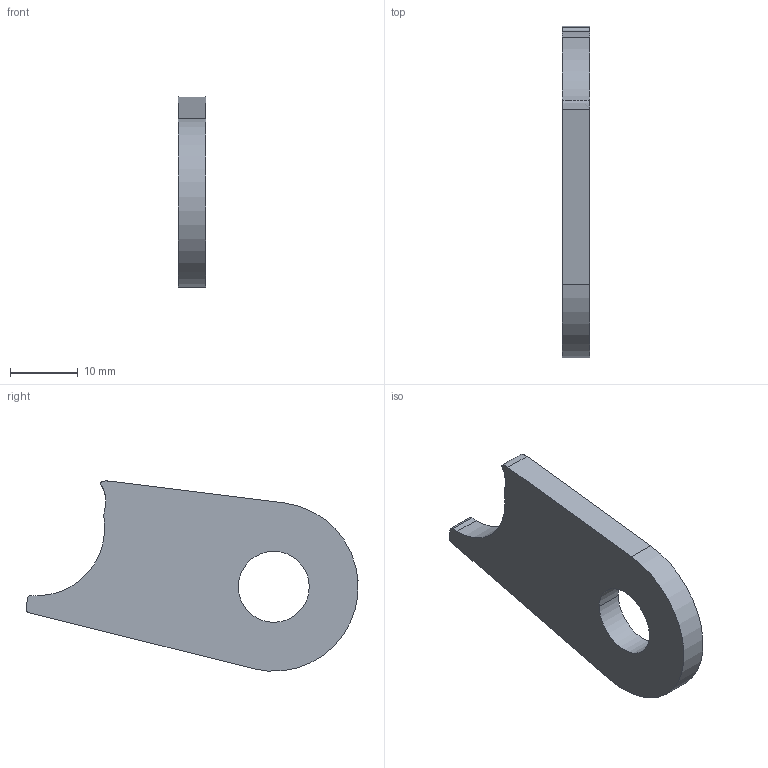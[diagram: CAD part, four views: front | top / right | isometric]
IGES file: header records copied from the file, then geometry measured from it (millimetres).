
Start section: START RECORD GO HERE.
Global section: file name: 20M_EN_06130 (Chape PE Droit Haut 2).igs; native system: IBM CATIA IGES - CATIA Version 5 Release 19 ; preprocessor: CATIA Version 5 Release 19 ; author: mik75; organization: LAPTOP-SUH344G9; date: 20200110.161235; units: millimetre
Bounding box: 4 x 49.13 x 28.13 mm (x, y, z)
Surface area: 2295.2 mm2 (no closed solid volume)
Topology: 0 solids, 0 shells, 17 faces, 94 edges, 94 vertices
Faces by surface type: revolution 8, plane 5, extrusion 4
